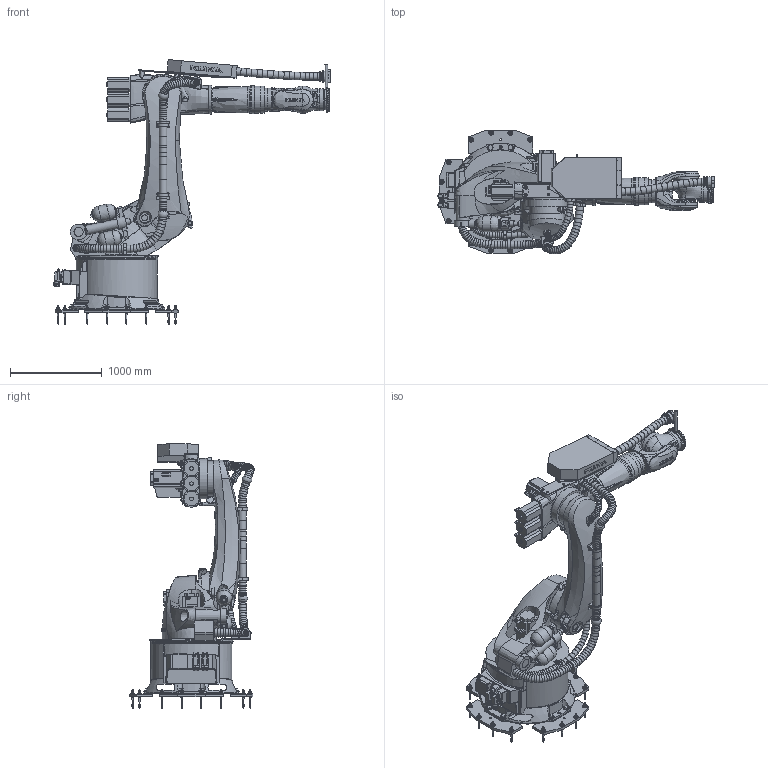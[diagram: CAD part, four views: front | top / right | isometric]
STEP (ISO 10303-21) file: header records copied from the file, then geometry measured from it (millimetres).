
FILE_DESCRIPTION(/* description */ (''),/* implementation_level */ '2;1');
FILE_NAME(/* name */ 'KR340_R3330_KR240_R3330.stp',/* time_stamp */ '2023-06-14T12:26:40+02:00',/* author */ (''),/* organization */ (''),/* preprocessor_version */ 'ST-DEVELOPER v18.102',/* originating_system */ 'SIEMENS PLM Software NX 2000',/* authorisation */ '');
FILE_SCHEMA (('AUTOMOTIVE_DESIGN { 1 0 10303 214 3 1 1 1 }'));
Length unit declared in the file: millimetre
Products named in the file (1): Rohe0A3016848dgu
Bounding box: 3017.18 x 1352.49 x 2881.18 mm (x, y, z)
Volume: 1043900436.9 mm3; surface area: 23471768.8 mm2
Topology: 160 solids, 165 shells, 4842 faces, 11563 edges, 7122 vertices
Faces by surface type: plane 2275, cylinder 1121, torus 454, cone 410, bspline 388, sphere 111, revolution 47, extrusion 36
Full cylindrical faces by diameter (mm): 4.2 x1, 5 x3, 6.4 x4, 6.8 x12, 7 x12, 7.5 x8, 8 x2, 8.4 x2, 8.5 x6, 8.8 x4, 9 x26, 10 x66, 10.2 x11, 10.3 x4, 11 x2, 12 x7, 13 x2, 13.5 x8, 13.835 x32, 15.6 x16, 16 x24, 17 x48, 18 x2, 19.2 x12, 20 x6, 24 x8, 25 x11, 26 x16, 28 x3, 29.5 x1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
Entity records: 192255 total; most frequent: CARTESIAN_POINT 70951, DIRECTION 20084, ORIENTED_EDGE 19802, EDGE_CURVE 9901, AXIS2_PLACEMENT_3D 7531, VERTEX_POINT 6779, EDGE_LOOP 6663, VECTOR 4975
